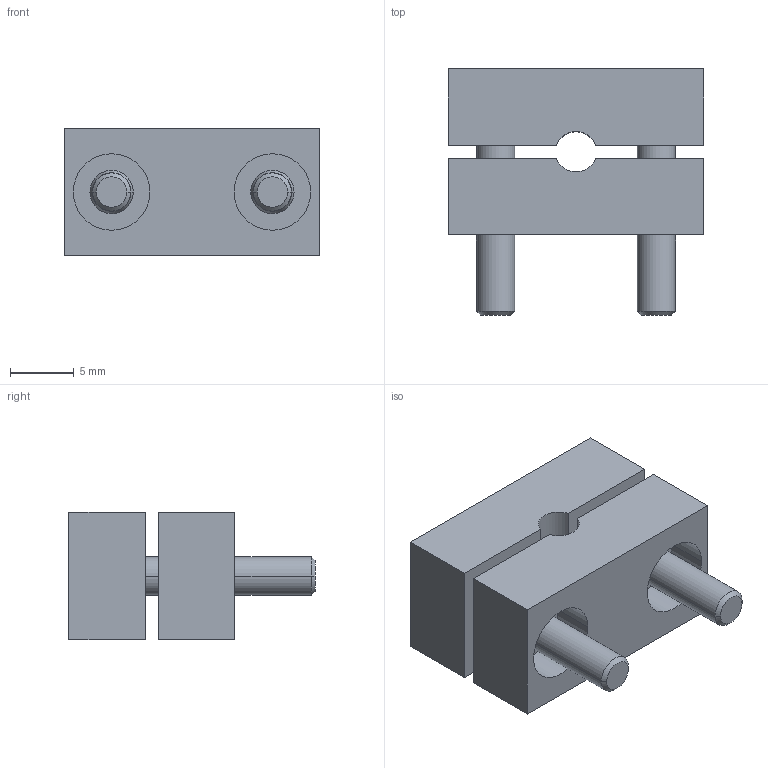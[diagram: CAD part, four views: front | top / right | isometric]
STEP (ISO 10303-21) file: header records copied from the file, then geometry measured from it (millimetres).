
FILE_DESCRIPTION( ( '' ), '1' );
FILE_NAME( '//expscmdclustefs.cadenas.external/client_exchange/iodir/jobs/output/wkb55324829_no0/STEP/E20107_2_03.stp', '2013-03-08T09:59:10', ( '' ), ( '' ), ' ', ' ', ' ' );
FILE_SCHEMA( ( 'CONFIG_CONTROL_DESIGN' ) );
Length unit declared in the file: millimetre
Products named in the file (4): 1; 2; 3; 4
Bounding box: 20 x 19.3 x 10 mm (x, y, z)
Volume: 2190.7 mm3; surface area: 2293.5 mm2
Topology: 4 solids, 4 shells, 92 faces, 238 edges, 162 vertices
Faces by surface type: plane 38, cylinder 26, torus 16, cone 12
Entity records: 3052 total; most frequent: CARTESIAN_POINT 544, DIRECTION 528, ORIENTED_EDGE 476, EDGE_CURVE 238, AXIS2_PLACEMENT_3D 218, VERTEX_POINT 162, CIRCLE 122, EDGE_LOOP 108
